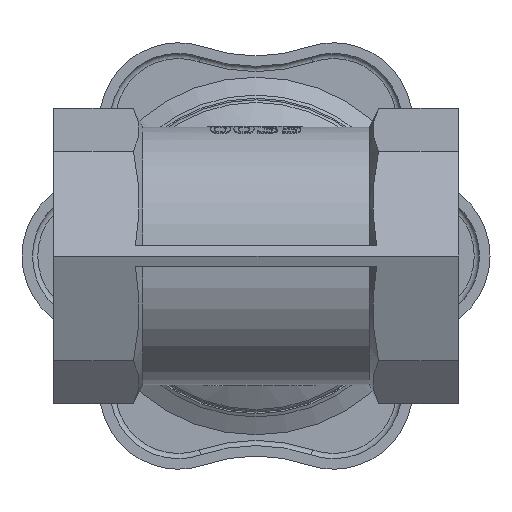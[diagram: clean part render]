
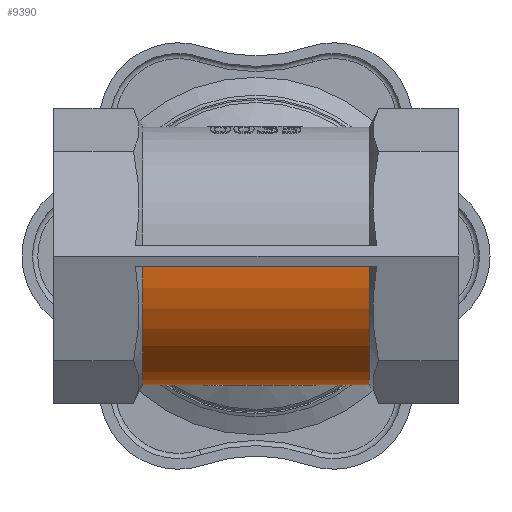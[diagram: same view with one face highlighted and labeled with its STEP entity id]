
A CAD part, front view. The second image highlights one B-rep face of the part: STEP entity #9390.
In plain terms, the highlighted cylindrical face has radius 12.25 mm (diameter 24.5 mm), a partial arc.
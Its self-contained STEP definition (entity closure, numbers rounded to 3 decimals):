
#288=ELLIPSE('',#10021,12.967,12.25);
#289=ELLIPSE('',#10022,12.967,12.25);
#439=CIRCLE('',#10016,12.25);
#441=CIRCLE('',#10023,12.25);
#1073=LINE('',#15025,#1685);
#1082=LINE('',#15119,#1694);
#1685=VECTOR('',#11070,10.);
#1694=VECTOR('',#11099,10.);
#2306=FACE_OUTER_BOUND('',#2858,.T.);
#2858=EDGE_LOOP('',(#6520,#6521,#6522,#6523,#6524,#6525,#6526,#6527));
#3471=B_SPLINE_CURVE_WITH_KNOTS('',3,(#15102,#15103,#15104,#15105,#15106,
#15107,#15108,#15109,#15110,#15111,#15112,#15113,#15114,#15115,#15116,#15117),
 .UNSPECIFIED.,.F.,.F.,(4,2,2,2,2,2,2,4),(3.38,3.391,
3.402,3.424,3.468,3.556,3.732,
4.021),.UNSPECIFIED.);
#3472=B_SPLINE_CURVE_WITH_KNOTS('',3,(#15121,#15122,#15123,#15124,#15125,
#15126,#15127,#15128,#15129,#15130,#15131,#15132,#15133,#15134,#15135,#15136),
 .UNSPECIFIED.,.F.,.F.,(4,2,2,2,2,2,2,4),(0.485,0.775,
0.951,1.039,1.083,1.105,1.116,
1.127),.UNSPECIFIED.);
#3863=VERTEX_POINT('',#15019);
#3865=VERTEX_POINT('',#15024);
#3881=VERTEX_POINT('',#15079);
#3886=VERTEX_POINT('',#15099);
#3887=VERTEX_POINT('',#15101);
#3888=VERTEX_POINT('',#15118);
#3889=VERTEX_POINT('',#15120);
#3890=VERTEX_POINT('',#15137);
#4900=EDGE_CURVE('',#3865,#3863,#1073,.T.);
#4919=EDGE_CURVE('',#3881,#3863,#439,.T.);
#4925=EDGE_CURVE('',#3886,#3881,#288,.T.);
#4926=EDGE_CURVE('',#3887,#3886,#3471,.T.);
#4927=EDGE_CURVE('',#3888,#3887,#1082,.T.);
#4928=EDGE_CURVE('',#3889,#3888,#3472,.T.);
#4929=EDGE_CURVE('',#3890,#3889,#289,.T.);
#4930=EDGE_CURVE('',#3890,#3865,#441,.T.);
#6520=ORIENTED_EDGE('',*,*,#4900,.T.);
#6521=ORIENTED_EDGE('',*,*,#4919,.F.);
#6522=ORIENTED_EDGE('',*,*,#4925,.F.);
#6523=ORIENTED_EDGE('',*,*,#4926,.F.);
#6524=ORIENTED_EDGE('',*,*,#4927,.F.);
#6525=ORIENTED_EDGE('',*,*,#4928,.F.);
#6526=ORIENTED_EDGE('',*,*,#4929,.F.);
#6527=ORIENTED_EDGE('',*,*,#4930,.T.);
#9215=CYLINDRICAL_SURFACE('',#10020,12.25);
#9390=ADVANCED_FACE('',(#2306),#9215,.T.);
#10016=AXIS2_PLACEMENT_3D('',#15081,#11087,#11088);
#10020=AXIS2_PLACEMENT_3D('',#15098,#11095,#11096);
#10021=AXIS2_PLACEMENT_3D('',#15100,#11097,#11098);
#10022=AXIS2_PLACEMENT_3D('',#15138,#11100,#11101);
#10023=AXIS2_PLACEMENT_3D('',#15139,#11102,#11103);
#11070=DIRECTION('',(-1.,0.,0.));
#11087=DIRECTION('center_axis',(-1.,0.,0.));
#11088=DIRECTION('ref_axis',(0.,0.,1.));
#11095=DIRECTION('center_axis',(-1.,0.,0.));
#11096=DIRECTION('ref_axis',(0.,-1.,0.));
#11097=DIRECTION('center_axis',(0.945,0.,0.328));
#11098=DIRECTION('ref_axis',(-0.328,0.,0.945));
#11099=DIRECTION('',(-1.,0.,0.));
#11100=DIRECTION('center_axis',(-0.945,0.,0.328));
#11101=DIRECTION('ref_axis',(0.328,0.,0.945));
#11102=DIRECTION('center_axis',(-1.,0.,0.));
#11103=DIRECTION('ref_axis',(0.,0.,1.));
#15019=CARTESIAN_POINT('',(-10.75,-12.209,-1.));
#15024=CARTESIAN_POINT('',(10.75,-12.209,-1.));
#15025=CARTESIAN_POINT('',(0.,-12.209,-1.));
#15079=CARTESIAN_POINT('',(-10.75,10.886,-5.617));
#15081=CARTESIAN_POINT('Origin',(-10.75,0.,
0.));
#15098=CARTESIAN_POINT('Origin',(0.,0.,
0.));
#15099=CARTESIAN_POINT('',(-8.967,5.863,-10.756));
#15100=CARTESIAN_POINT('Origin',(-12.7,0.,
0.));
#15101=CARTESIAN_POINT('',(-7.078,0.,-12.25));
#15102=CARTESIAN_POINT('Ctrl Pts',(-7.078,0.,
-12.25));
#15103=CARTESIAN_POINT('Ctrl Pts',(-7.078,0.037,
-12.25));
#15104=CARTESIAN_POINT('Ctrl Pts',(-7.085,0.07,
-12.25));
#15105=CARTESIAN_POINT('Ctrl Pts',(-7.103,0.136,
-12.249));
#15106=CARTESIAN_POINT('Ctrl Pts',(-7.113,0.168,
-12.249));
#15107=CARTESIAN_POINT('Ctrl Pts',(-7.147,0.264,
-12.247));
#15108=CARTESIAN_POINT('Ctrl Pts',(-7.171,0.326,-12.246));
#15109=CARTESIAN_POINT('Ctrl Pts',(-7.244,0.517,
-12.24));
#15110=CARTESIAN_POINT('Ctrl Pts',(-7.295,0.645,
-12.234));
#15111=CARTESIAN_POINT('Ctrl Pts',(-7.45,1.033,-12.209));
#15112=CARTESIAN_POINT('Ctrl Pts',(-7.556,1.301,-12.184));
#15113=CARTESIAN_POINT('Ctrl Pts',(-7.871,2.108,-12.079));
#15114=CARTESIAN_POINT('Ctrl Pts',(-8.082,2.668,-11.969));
#15115=CARTESIAN_POINT('Ctrl Pts',(-8.581,4.116,-11.576));
#15116=CARTESIAN_POINT('Ctrl Pts',(-8.846,5.017,-11.217));
#15117=CARTESIAN_POINT('Ctrl Pts',(-8.967,5.863,-10.756));
#15118=CARTESIAN_POINT('',(7.078,0.,-12.25));
#15119=CARTESIAN_POINT('',(10.7,0.,-12.25));
#15120=CARTESIAN_POINT('',(8.967,5.863,-10.756));
#15121=CARTESIAN_POINT('Ctrl Pts',(8.967,5.863,-10.756));
#15122=CARTESIAN_POINT('Ctrl Pts',(8.846,5.017,-11.217));
#15123=CARTESIAN_POINT('Ctrl Pts',(8.581,4.116,-11.576));
#15124=CARTESIAN_POINT('Ctrl Pts',(8.082,2.668,-11.969));
#15125=CARTESIAN_POINT('Ctrl Pts',(7.871,2.108,-12.079));
#15126=CARTESIAN_POINT('Ctrl Pts',(7.556,1.301,-12.184));
#15127=CARTESIAN_POINT('Ctrl Pts',(7.45,1.033,-12.209));
#15128=CARTESIAN_POINT('Ctrl Pts',(7.295,0.645,-12.234));
#15129=CARTESIAN_POINT('Ctrl Pts',(7.244,0.517,-12.24));
#15130=CARTESIAN_POINT('Ctrl Pts',(7.171,0.326,-12.246));
#15131=CARTESIAN_POINT('Ctrl Pts',(7.147,0.264,-12.247));
#15132=CARTESIAN_POINT('Ctrl Pts',(7.113,0.168,-12.249));
#15133=CARTESIAN_POINT('Ctrl Pts',(7.103,0.136,-12.249));
#15134=CARTESIAN_POINT('Ctrl Pts',(7.085,0.07,
-12.25));
#15135=CARTESIAN_POINT('Ctrl Pts',(7.078,0.037,
-12.25));
#15136=CARTESIAN_POINT('Ctrl Pts',(7.078,0.,
-12.25));
#15137=CARTESIAN_POINT('',(10.75,10.885,-5.619));
#15138=CARTESIAN_POINT('Origin',(12.7,0.,0.));
#15139=CARTESIAN_POINT('Origin',(10.75,0.,0.));
